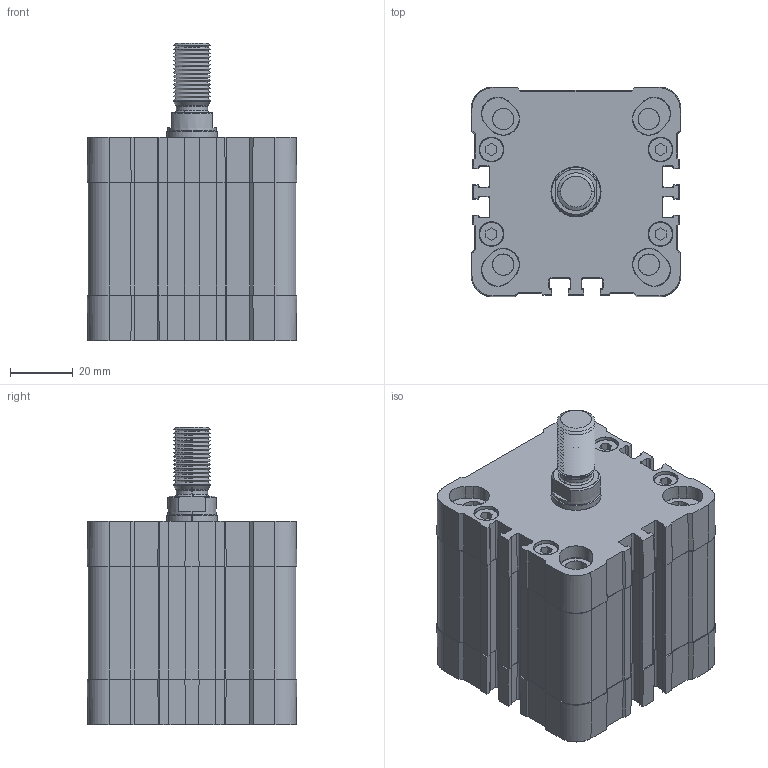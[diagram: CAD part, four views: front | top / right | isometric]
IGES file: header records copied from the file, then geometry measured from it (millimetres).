
Start section: SolidWorks IGES file using analytic representation for surfaces
Global section: file name: W:\_ALTRO\CATALOGO 3D\CYLINDERS\NSK\050\IGES\NSKI 050\NSKI 050 M\NSKI050.0020 M.IGS; native system: SolidWorks 2009; preprocessor: SolidWorks 2009; author: utente03; date: 110621.170259; units: millimetre
Bounding box: 67 x 67 x 95 mm (x, y, z)
Surface area: 73168.8 mm2 (no closed solid volume)
Topology: 0 solids, 0 shells, 1202 faces, 12116 edges, 12100 vertices
Faces by surface type: bspline 617, revolution 585
